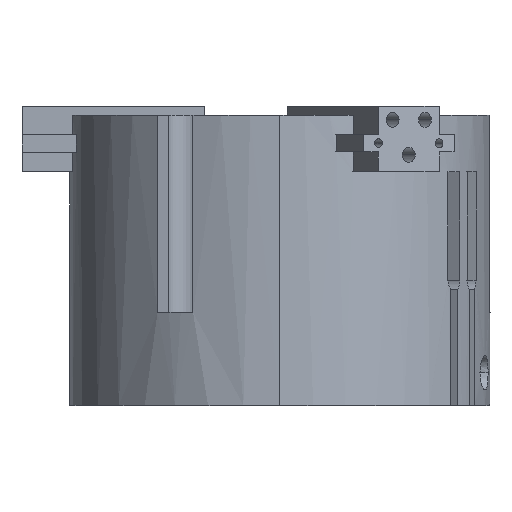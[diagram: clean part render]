
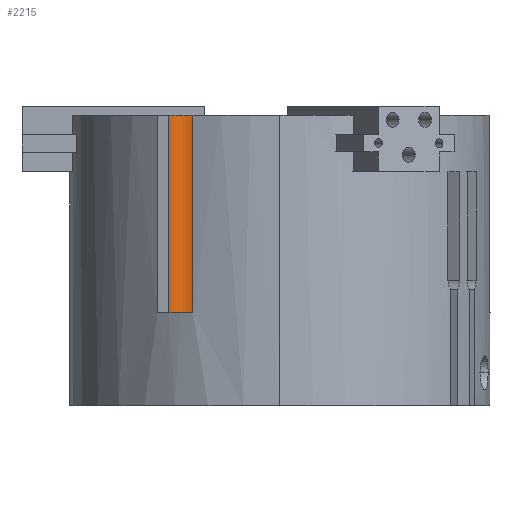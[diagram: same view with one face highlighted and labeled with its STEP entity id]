
A CAD part, top view. The second image highlights one B-rep face of the part: STEP entity #2215.
In plain terms, the highlighted cylindrical face has radius 5.563 mm (diameter 11.125 mm), a partial arc.
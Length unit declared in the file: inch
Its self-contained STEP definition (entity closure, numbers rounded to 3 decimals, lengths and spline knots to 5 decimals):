
#218 = EDGE_CURVE ( 'NONE', #5170, #5159, #3493, .T. ) ;
#321 = CIRCLE ( 'NONE', #3104, 0.219 ) ;
#414 = DIRECTION ( 'NONE',  ( 0., 1., 0. ) ) ;
#415 = DIRECTION ( 'NONE',  ( 0., 0., 1. ) ) ;
#466 = DIRECTION ( 'NONE',  ( 0., 1., 0. ) ) ;
#1092 = CYLINDRICAL_SURFACE ( 'NONE', #2342, 0.219 ) ;
#1256 = CARTESIAN_POINT ( 'NONE',  ( -0.81034, 1.5525, 1.84155 ) ) ;
#1619 = CARTESIAN_POINT ( 'NONE',  ( -0.81034, -0.5575, 1.84155 ) ) ;
#1682 = EDGE_CURVE ( 'NONE', #2254, #5159, #321, .T. ) ;
#1854 = CARTESIAN_POINT ( 'NONE',  ( -1., 1.5525, 1.73205 ) ) ;
#2016 = CIRCLE ( 'NONE', #3295, 0.219 ) ;
#2110 = CARTESIAN_POINT ( 'NONE',  ( -1.18966, 1.5525, 1.62255 ) ) ;
#2172 = FACE_OUTER_BOUND ( 'NONE', #4370, .T. ) ;
#2215 = ADVANCED_FACE ( 'NONE', ( #2172 ), #1092, .F. ) ;
#2254 = VERTEX_POINT ( 'NONE', #1256 ) ;
#2281 = DIRECTION ( 'NONE',  ( -0.866, 0., -0.5 ) ) ;
#2342 = AXIS2_PLACEMENT_3D ( 'NONE', #3969, #5291, #415 ) ;
#2452 = VECTOR ( 'NONE', #4799, 39.37008 ) ;
#2515 = CARTESIAN_POINT ( 'NONE',  ( -1.18966, -0.5575, 1.62255 ) ) ;
#2912 = CARTESIAN_POINT ( 'NONE',  ( -1., -0.5575, 1.73205 ) ) ;
#3001 = ORIENTED_EDGE ( 'NONE', *, *, #1682, .T. ) ;
#3023 = ORIENTED_EDGE ( 'NONE', *, *, #218, .F. ) ;
#3082 = ORIENTED_EDGE ( 'NONE', *, *, #5136, .F. ) ;
#3104 = AXIS2_PLACEMENT_3D ( 'NONE', #1854, #4645, #2281 ) ;
#3232 = CARTESIAN_POINT ( 'NONE',  ( -0.81034, -0.5575, 1.84155 ) ) ;
#3272 = ORIENTED_EDGE ( 'NONE', *, *, #5028, .T. ) ;
#3291 = DIRECTION ( 'NONE',  ( -0.866, 0., -0.5 ) ) ;
#3295 = AXIS2_PLACEMENT_3D ( 'NONE', #2912, #466, #3291 ) ;
#3493 = LINE ( 'NONE', #5263, #2452 ) ;
#3562 = LINE ( 'NONE', #3232, #4489 ) ;
#3822 = VERTEX_POINT ( 'NONE', #1619 ) ;
#3969 = CARTESIAN_POINT ( 'NONE',  ( -1., -0.5575, 1.73205 ) ) ;
#4370 = EDGE_LOOP ( 'NONE', ( #3001, #3023, #3082, #3272 ) ) ;
#4489 = VECTOR ( 'NONE', #414, 39.37008 ) ;
#4645 = DIRECTION ( 'NONE',  ( 0., 1., 0. ) ) ;
#4799 = DIRECTION ( 'NONE',  ( 0., 1., 0. ) ) ;
#5028 = EDGE_CURVE ( 'NONE', #3822, #2254, #3562, .T. ) ;
#5136 = EDGE_CURVE ( 'NONE', #3822, #5170, #2016, .T. ) ;
#5159 = VERTEX_POINT ( 'NONE', #2110 ) ;
#5170 = VERTEX_POINT ( 'NONE', #2515 ) ;
#5263 = CARTESIAN_POINT ( 'NONE',  ( -1.18966, -0.5575, 1.62255 ) ) ;
#5291 = DIRECTION ( 'NONE',  ( 0., 1., 0. ) ) ;
